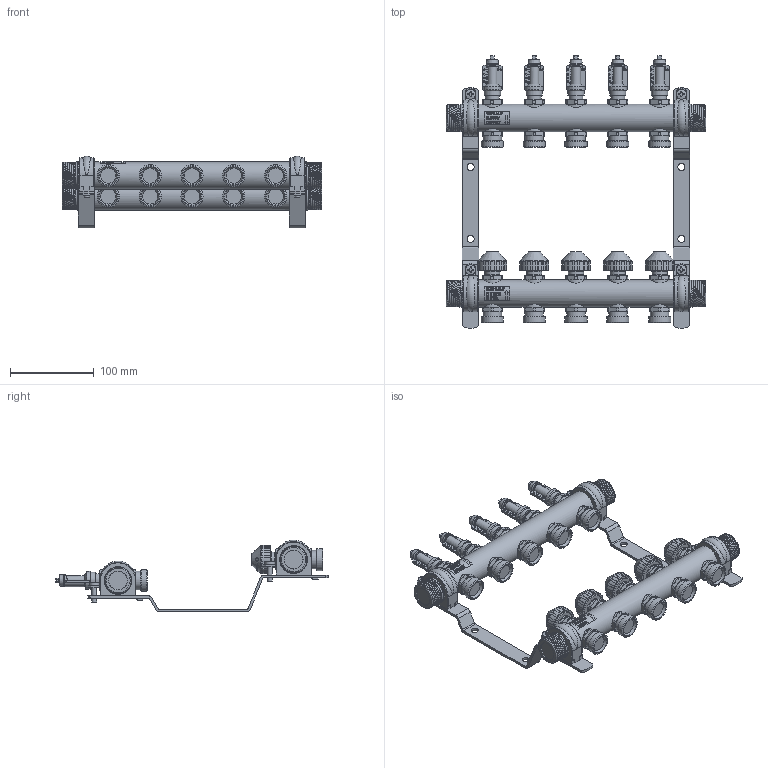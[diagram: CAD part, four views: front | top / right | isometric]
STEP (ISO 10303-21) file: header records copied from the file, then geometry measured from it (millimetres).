
FILE_DESCRIPTION((''),'2;1');
FILE_NAME('C:\Users\duckj\Desktop\10026187.stp','2017-04-13T13:51:53',('duckj'),(''),'Autodesk Inventor 2013','Autodesk Inventor 2013','');
FILE_SCHEMA(('CONFIG_CONTROL_DESIGN'));
Length unit declared in the file: millimetre
Products named in the file (4): 13042017_010; 13042017_008; 13042017_009; 26102016_005
Assembly tree (4 placements, depth 2):
  13042017_010
    13042017_008
    13042017_009
    26102016_005  x2
Bounding box: 310 x 325.94 x 85.69 mm (x, y, z)
Volume: 459790.2 mm3; surface area: 188230.9 mm2
Topology: 14 solids, 15 shells, 3232 faces, 8603 edges, 5618 vertices
Faces by surface type: plane 1776, cylinder 563, bspline 482, cone 342, torus 65, sphere 4
Full cylindrical faces by diameter (mm): 3 x5, 6 x8, 8.5 x4, 12 x4, 15 x5, 15.5 x5, 16.5 x5, 18 x5, 19.5 x5, 21.8 x20, 22 x34, 26.441 x10, 33 x6, 33.7 x5
Entity records: 157349 total; most frequent: CARTESIAN_POINT 82683, ORIENTED_EDGE 15906, DIRECTION 12986, EDGE_CURVE 7953, VERTEX_POINT 5281, AXIS2_PLACEMENT_3D 4393, VECTOR 4200, LINE 4200
